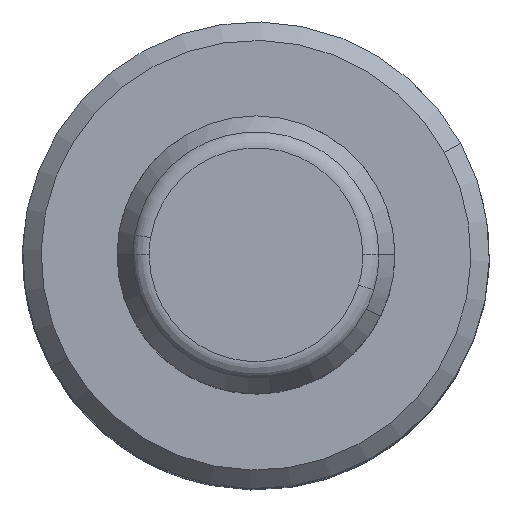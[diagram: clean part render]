
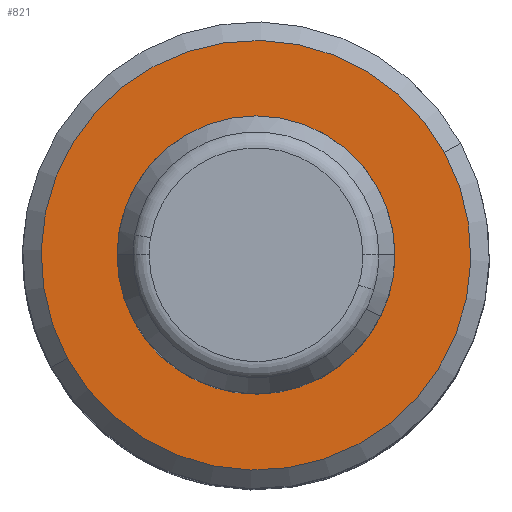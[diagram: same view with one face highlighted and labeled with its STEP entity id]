
A CAD part, top view. The second image highlights one B-rep face of the part: STEP entity #821.
In plain terms, the highlighted planar face has unit normal (0, 0, 1).
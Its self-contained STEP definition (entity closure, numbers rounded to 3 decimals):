
#769=CARTESIAN_POINT('Axis2P3D Location',(0.,0.,44.)) ;
#773=CARTESIAN_POINT('Vertex',(10.18,5.561,44.)) ;
#775=CARTESIAN_POINT('Vertex',(-10.18,-5.561,44.)) ;
#800=CARTESIAN_POINT('Axis2P3D Location',(0.,0.,44.)) ;
#812=CARTESIAN_POINT('Axis2P3D Location',(11.6,0.,44.)) ;
#770=DIRECTION('Axis2P3D Direction',(0.,0.,-1.)) ;
#801=DIRECTION('Axis2P3D Direction',(0.,0.,-1.)) ;
#813=DIRECTION('Axis2P3D Direction',(0.,0.,1.)) ;
#814=DIRECTION('Axis2P3D XDirection',(1.,0.,0.)) ;
#771=AXIS2_PLACEMENT_3D('Circle Axis2P3D',#769,#770,$) ;
#802=AXIS2_PLACEMENT_3D('Circle Axis2P3D',#800,#801,$) ;
#815=AXIS2_PLACEMENT_3D('Plane Axis2P3D',#812,#813,#814) ;
#818=ORIENTED_EDGE('',*,*,#777,.T.) ;
#819=ORIENTED_EDGE('',*,*,#804,.T.) ;
#821=ADVANCED_FACE('',(#820),#816,.T.) ;
#772=CIRCLE('generated circle',#771,11.6) ;
#803=CIRCLE('generated circle',#802,11.6) ;
#777=EDGE_CURVE('',#774,#776,#772,.F.) ;
#804=EDGE_CURVE('',#776,#774,#803,.F.) ;
#817=EDGE_LOOP('',(#818,#819)) ;
#820=FACE_OUTER_BOUND('',#817,.T.) ;
#816=PLANE('Plane',#815) ;
#774=VERTEX_POINT('',#773) ;
#776=VERTEX_POINT('',#775) ;
